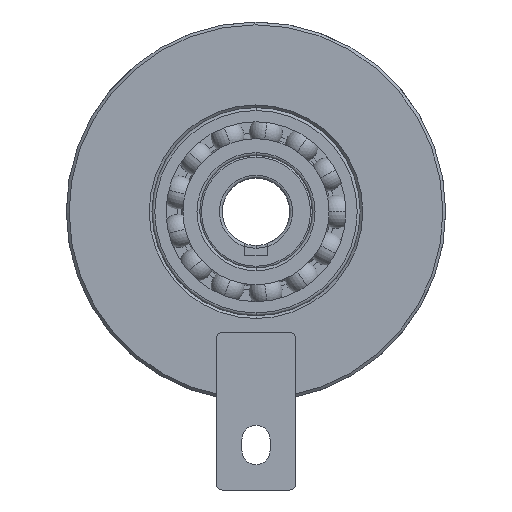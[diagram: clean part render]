
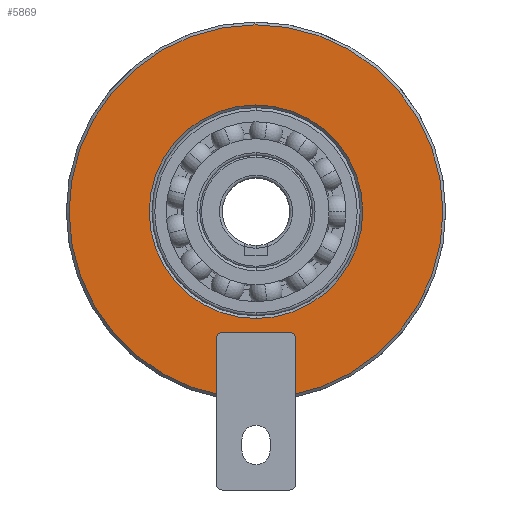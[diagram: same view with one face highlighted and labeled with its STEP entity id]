
A CAD part, front view. The second image highlights one B-rep face of the part: STEP entity #5869.
In plain terms, the highlighted planar face has unit normal (0, -1, 0).
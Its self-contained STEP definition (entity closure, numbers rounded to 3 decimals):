
#450 = CIRCLE ( 'NONE', #4631, 33.25 ) ;
#1139 = VERTEX_POINT ( 'NONE', #11081 ) ;
#1404 = CARTESIAN_POINT ( 'NONE',  ( 0., -57.35, 0. ) ) ;
#1708 = CIRCLE ( 'NONE', #8365, 19. ) ;
#1973 = CIRCLE ( 'NONE', #7449, 19. ) ;
#2013 = DIRECTION ( 'NONE',  ( 0., 1., 0. ) ) ;
#2398 = DIRECTION ( 'NONE',  ( 0.005, 0., -1. ) ) ;
#2831 = ORIENTED_EDGE ( 'NONE', *, *, #4259, .T. ) ;
#3866 = FACE_BOUND ( 'NONE', #10696, .T. ) ;
#4097 = CARTESIAN_POINT ( 'NONE',  ( 0., -57.35, 0. ) ) ;
#4259 = EDGE_CURVE ( 'NONE', #12468, #4930, #450, .T. ) ;
#4265 = CARTESIAN_POINT ( 'NONE',  ( 0., -57.35, 0. ) ) ;
#4631 = AXIS2_PLACEMENT_3D ( 'NONE', #4097, #11050, #5108 ) ;
#4777 = EDGE_CURVE ( 'NONE', #1139, #4870, #1708, .T. ) ;
#4870 = VERTEX_POINT ( 'NONE', #9168 ) ;
#4930 = VERTEX_POINT ( 'NONE', #11927 ) ;
#5105 = EDGE_CURVE ( 'NONE', #4930, #12468, #5764, .T. ) ;
#5108 = DIRECTION ( 'NONE',  ( 0.005, 0., -1. ) ) ;
#5275 = DIRECTION ( 'NONE',  ( 0.005, 0., -1. ) ) ;
#5764 = CIRCLE ( 'NONE', #9242, 33.25 ) ;
#5765 = CARTESIAN_POINT ( 'NONE',  ( -33.75, -57.35, -0.179 ) ) ;
#5869 = ADVANCED_FACE ( 'NONE', ( #3866, #11167 ), #7740, .T. ) ;
#6796 = DIRECTION ( 'NONE',  ( 0.005, 0., -1. ) ) ;
#6953 = EDGE_LOOP ( 'NONE', ( #2831, #12274 ) ) ;
#7153 = EDGE_CURVE ( 'NONE', #4870, #1139, #1973, .T. ) ;
#7449 = AXIS2_PLACEMENT_3D ( 'NONE', #4265, #11218, #5275 ) ;
#7740 = PLANE ( 'NONE',  #12939 ) ;
#8010 = CARTESIAN_POINT ( 'NONE',  ( 0., -57.35, 0. ) ) ;
#8365 = AXIS2_PLACEMENT_3D ( 'NONE', #8010, #2013, #9000 ) ;
#8390 = DIRECTION ( 'NONE',  ( 0., -1., 0. ) ) ;
#9000 = DIRECTION ( 'NONE',  ( 0.005, 0., -1. ) ) ;
#9168 = CARTESIAN_POINT ( 'NONE',  ( 0.101, -57.35, -19. ) ) ;
#9242 = AXIS2_PLACEMENT_3D ( 'NONE', #1404, #8390, #2398 ) ;
#9553 = ORIENTED_EDGE ( 'NONE', *, *, #7153, .T. ) ;
#10696 = EDGE_LOOP ( 'NONE', ( #9553, #11726 ) ) ;
#11050 = DIRECTION ( 'NONE',  ( 0., -1., 0. ) ) ;
#11081 = CARTESIAN_POINT ( 'NONE',  ( -0.101, -57.35, 19. ) ) ;
#11153 = CARTESIAN_POINT ( 'NONE',  ( -0.177, -57.35, 33.25 ) ) ;
#11167 = FACE_OUTER_BOUND ( 'NONE', #6953, .T. ) ;
#11218 = DIRECTION ( 'NONE',  ( 0., 1., 0. ) ) ;
#11726 = ORIENTED_EDGE ( 'NONE', *, *, #4777, .T. ) ;
#11927 = CARTESIAN_POINT ( 'NONE',  ( 0.177, -57.35, -33.25 ) ) ;
#12274 = ORIENTED_EDGE ( 'NONE', *, *, #5105, .T. ) ;
#12468 = VERTEX_POINT ( 'NONE', #11153 ) ;
#12728 = DIRECTION ( 'NONE',  ( 0., -1., 0. ) ) ;
#12939 = AXIS2_PLACEMENT_3D ( 'NONE', #5765, #12728, #6796 ) ;
